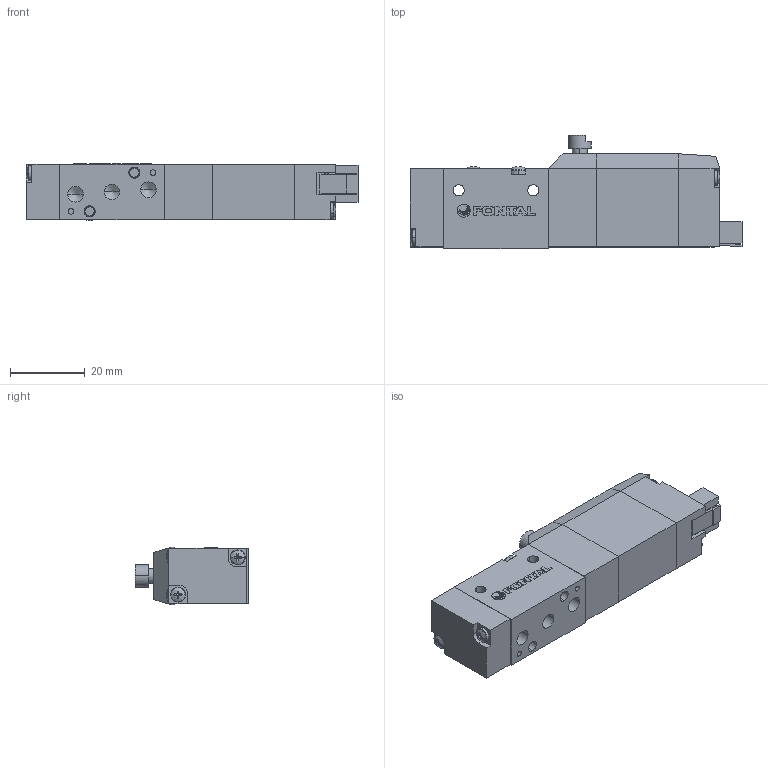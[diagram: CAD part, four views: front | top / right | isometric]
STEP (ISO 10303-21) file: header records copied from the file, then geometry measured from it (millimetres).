
FILE_DESCRIPTION (( 'STEP AP203' ), '1' );
FILE_NAME ('RCL245#-M5-#-SP-#.STEP', '2016-02-04T05:21:40', ( 'Sam Lin' ), ( '' ), 'SwSTEP 2.0', 'SolidWorks 2013', '' );
FILE_SCHEMA (( 'CONFIG_CONTROL_DESIGN' ));
Length unit declared in the file: metre
Products named in the file (11): PC5-7; PC5-8; PC5-10; PC5-5-PCL･ﾎ; RCS-1; 手動鈕; PC-MARK; RCL245#-M5-#-SP-#; PC5-2; ISO 7045 - M2 x 10; ISO 7045 - M2.5 x 25
Assembly tree (14 placements, depth 2):
  RCL245#-M5-#-SP-#
    RCS-1
    PC-MARK
    PC5-2
    ISO 7045 - M2 x 10  x4
    ISO 7045 - M2.5 x 25  x2
    PC5-7
    PC5-8
    PC5-10
    PC5-5-PCL･ﾎ
    手動鈕
Bounding box: 89.07 x 30.5 x 15.4 mm (x, y, z)
Volume: 27715.6 mm3; surface area: 13297.6 mm2
Topology: 21 solids, 21 shells, 523 faces, 1293 edges, 806 vertices
Faces by surface type: plane 312, cylinder 95, cone 72, bspline 44
Entity records: 12048 total; most frequent: CARTESIAN_POINT 2387, ORIENTED_EDGE 1746, DIRECTION 1705, EDGE_CURVE 873, VECTOR 577, LINE 577, VERTEX_POINT 566, AXIS2_PLACEMENT_3D 564
